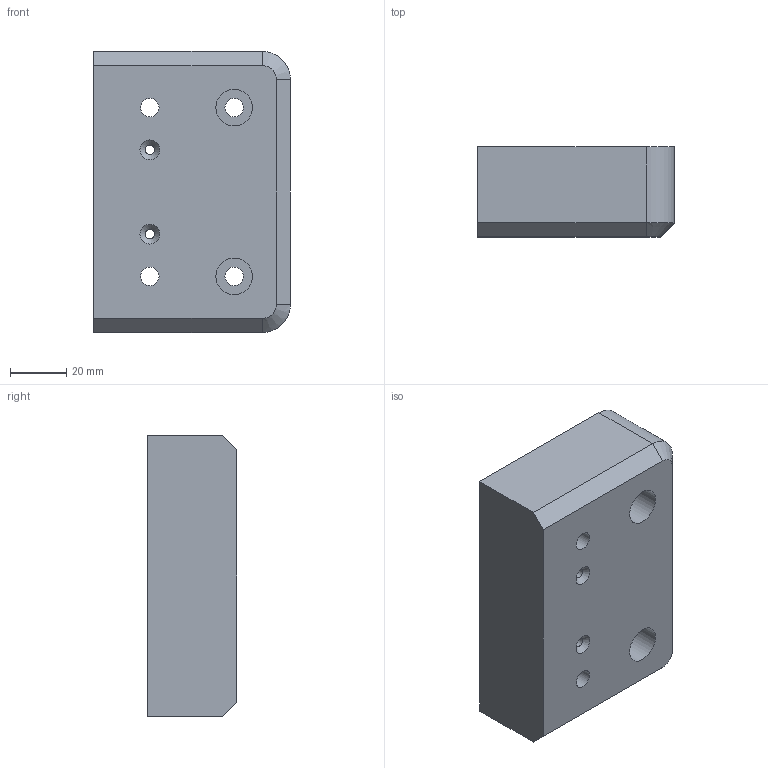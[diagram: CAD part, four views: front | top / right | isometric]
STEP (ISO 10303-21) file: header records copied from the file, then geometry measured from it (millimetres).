
FILE_DESCRIPTION(/* description */ ('FIXATION AVANT','CAx-IF Rec.Pracs.---Representation and Presentation of Product Manufacturing Information (PMI)---4.0---2014-10-13'),/* implementation_level */ '2;1');
FILE_NAME(/* name */ 'vv810008-A.stp',/* time_stamp */ '2025-09-29T10:10:28+02:00',/* author */ ('RIVIERE C.'),/* organization */ (''),/* preprocessor_version */ 'ST-DEVELOPER v20',/* originating_system */ 'Autodesk Inventor 2025',/* authorisation */ '');
FILE_SCHEMA (('AP242_MANAGED_MODEL_BASED_3D_ENGINEERING_MIM_LF { 1 0 10303 442 1 1 4 }'));
Length unit declared in the file: millimetre
Products named in the file (1): VICTOR.V.81.00.08
Bounding box: 70 x 32 x 100 mm (x, y, z)
Volume: 195415.9 mm3; surface area: 28874.7 mm2
Topology: 1 solids, 1 shells, 30 faces, 69 edges, 44 vertices
Faces by surface type: plane 14, cylinder 12, cone 4
Full cylindrical faces by diameter (mm): 3.4 x2, 6.6 x4, 13 x2
Entity records: 1093 total; most frequent: CARTESIAN_POINT 195, DIRECTION 171, ORIENTED_EDGE 138, EDGE_CURVE 69, AXIS2_PLACEMENT_3D 65, EDGE_LOOP 45, VERTEX_POINT 44, LINE 41
